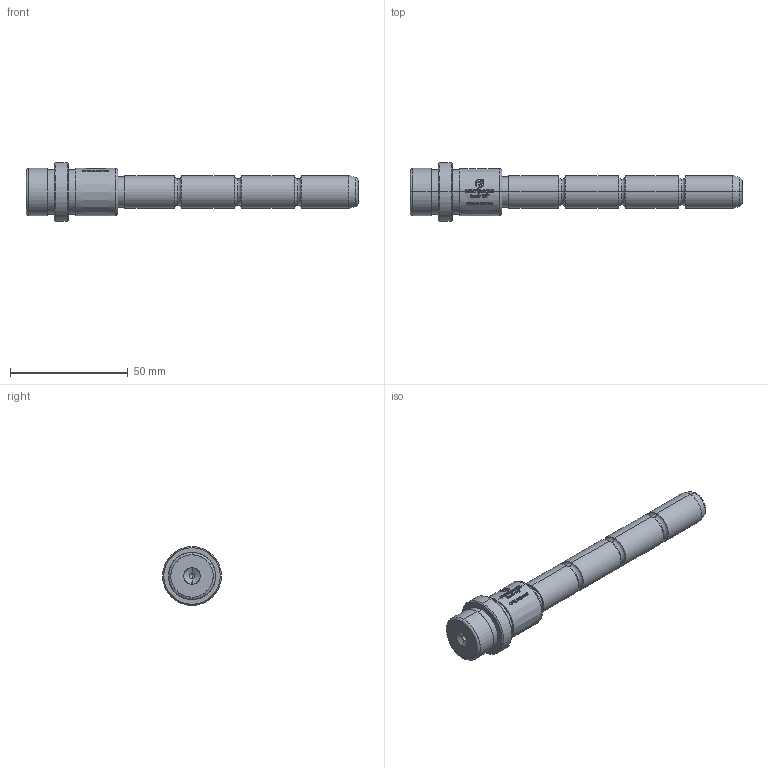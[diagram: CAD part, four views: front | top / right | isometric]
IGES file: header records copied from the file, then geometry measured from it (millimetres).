
Start section: SolidWorks IGES file using analytic representation for surfaces
Global section: file name: E:\1.TRIVECTOR\Clientes\MATRIPEÇAS\PEÇAS_CATALOGO_SITE\5.CFGM - COLUNA PLACA FLUTUANTE GUIADA E31 (CATÁLOGO)\CFGM14027102.IGS; native system: SolidWorks 2024; preprocessor: SolidWorks 2024; author: Gabriel Techio; date: 260902.200722; units: millimetre
Bounding box: 141 x 25 x 25 mm (x, y, z)
Surface area: 8245.3 mm2 (no closed solid volume)
Topology: 0 solids, 0 shells, 512 faces, 4672 edges, 4668 vertices
Faces by surface type: bspline 410, revolution 102
